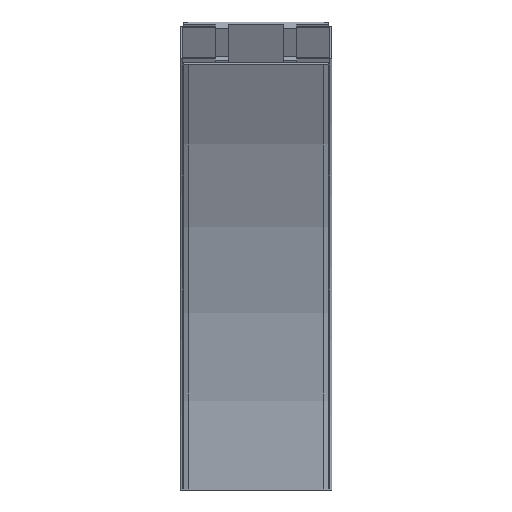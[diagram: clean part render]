
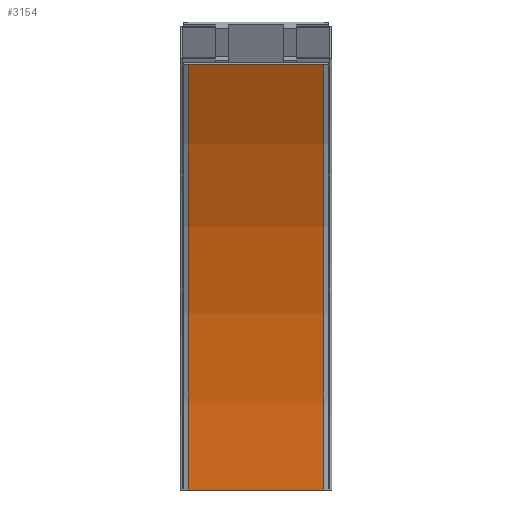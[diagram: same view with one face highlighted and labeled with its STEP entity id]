
A CAD part, front view. The second image highlights one B-rep face of the part: STEP entity #3154.
In plain terms, the highlighted cylindrical face has radius 817.5 mm (diameter 1635 mm), a partial arc.
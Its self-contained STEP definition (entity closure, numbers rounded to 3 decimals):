
#3096=CARTESIAN_POINT('',(104.,-183.524,408.75));
#3097=VERTEX_POINT('',#3096);
#3104=CARTESIAN_POINT('',(104.,-74.,0.0));
#3105=VERTEX_POINT('',#3104);
#3106=CARTESIAN_POINT('',(104.,-891.5,0.0));
#3107=DIRECTION('',(1.0,0.0,0.0));
#3108=DIRECTION('',(0.0,1.0,0.0));
#3109=AXIS2_PLACEMENT_3D('',#3106,#3107,#3108);
#3110=CIRCLE('',#3109,817.5);
#3111=EDGE_CURVE('',#3105,#3097,#3110,.T.);
#3123=CARTESIAN_POINT('',(39.,-891.5,0.0));
#3124=DIRECTION('',(1.0,0.0,0.0));
#3125=DIRECTION('',(0.0,1.0,0.0));
#3126=AXIS2_PLACEMENT_3D('',#3123,#3124,#3125);
#3127=CYLINDRICAL_SURFACE('',#3126,817.5);
#3128=CARTESIAN_POINT('',(-26.,-183.524,408.75));
#3129=VERTEX_POINT('',#3128);
#3130=CARTESIAN_POINT('',(104.0,-183.524,408.75));
#3131=DIRECTION('',(-1.0,0.0,0.0));
#3132=VECTOR('',#3131,130.);
#3133=LINE('',#3130,#3132);
#3134=EDGE_CURVE('',#3097,#3129,#3133,.T.);
#3135=ORIENTED_EDGE('',*,*,#3134,.T.);
#3136=CARTESIAN_POINT('',(-26.,-74.,0.0));
#3137=VERTEX_POINT('',#3136);
#3138=CARTESIAN_POINT('',(-26.,-891.5,0.0));
#3139=DIRECTION('',(1.0,0.0,0.0));
#3140=DIRECTION('',(0.0,1.0,0.0));
#3141=AXIS2_PLACEMENT_3D('',#3138,#3139,#3140);
#3142=CIRCLE('',#3141,817.5);
#3143=EDGE_CURVE('',#3137,#3129,#3142,.T.);
#3144=ORIENTED_EDGE('',*,*,#3143,.F.);
#3145=CARTESIAN_POINT('',(-26.,-74.,0.0));
#3146=DIRECTION('',(1.0,0.0,0.0));
#3147=VECTOR('',#3146,130.);
#3148=LINE('',#3145,#3147);
#3149=EDGE_CURVE('',#3137,#3105,#3148,.T.);
#3150=ORIENTED_EDGE('',*,*,#3149,.T.);
#3151=ORIENTED_EDGE('',*,*,#3111,.T.);
#3152=EDGE_LOOP('',(#3135,#3144,#3150,#3151));
#3153=FACE_OUTER_BOUND('',#3152,.T.);
#3154=ADVANCED_FACE('',(#3153),#3127,.F.);
